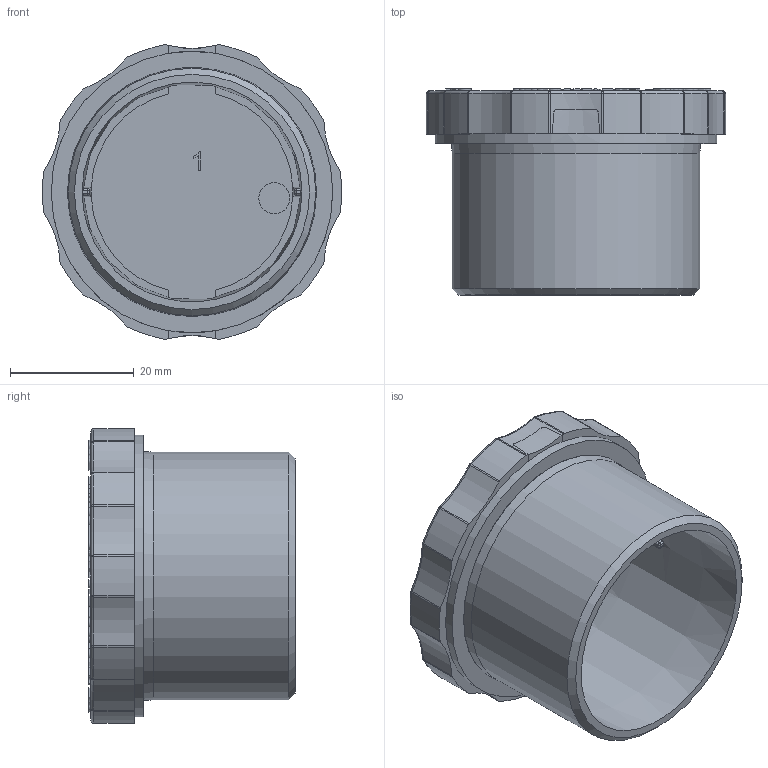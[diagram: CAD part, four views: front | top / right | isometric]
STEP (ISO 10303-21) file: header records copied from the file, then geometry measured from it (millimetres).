
FILE_DESCRIPTION(/* description */ (''),/* implementation_level */ '2;1');
FILE_NAME(/* name */ 'C:\SapWorkDir\Inventor\MP1\ConvertTempPath\87_16_121426_00_A_220713_KDP-ZR 40-6.stp',/* time_stamp */ '2022-07-13T11:53:10+02:00',/* author */ ('BAUER'),/* organization */ (''),/* preprocessor_version */ 'ST-DEVELOPER v16.13',/* originating_system */ 'Autodesk Inventor 2018',/* authorisation */ '');
FILE_SCHEMA (('AUTOMOTIVE_DESIGN { 1 0 10303 214 3 1 1 }'));
Length unit declared in the file: millimetre
Products named in the file (1): 121426
Bounding box: 48.35 x 33.3 x 47.61 mm (x, y, z)
Volume: 17259.7 mm3; surface area: 14552.6 mm2
Topology: 2 solids, 2 shells, 874 faces, 2351 edges, 1534 vertices
Faces by surface type: plane 418, bspline 286, cylinder 83, cone 33, torus 30, sphere 24
Full cylindrical faces by diameter (mm): 5 x1, 40 x1, 40.25 x2, 45.5 x1
Entity records: 29613 total; most frequent: CARTESIAN_POINT 9389, ORIENTED_EDGE 4632, DIRECTION 3333, EDGE_CURVE 2316, VERTEX_POINT 1529, LINE 1353, VECTOR 1353, AXIS2_PLACEMENT_3D 990
